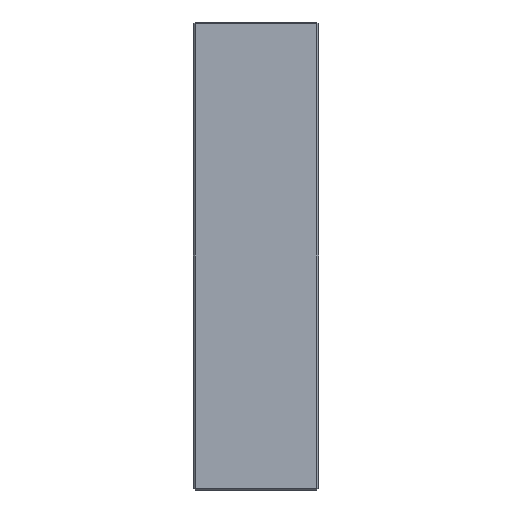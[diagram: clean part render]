
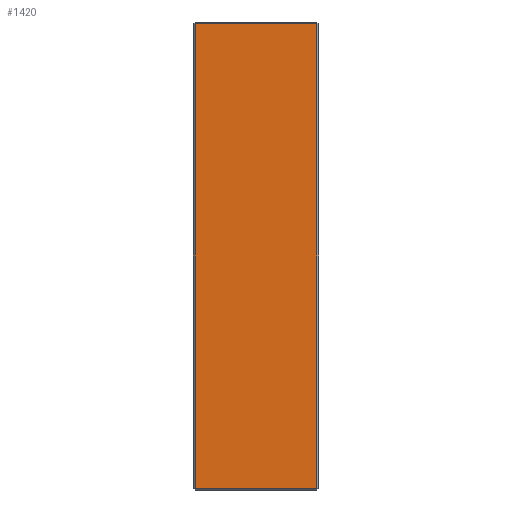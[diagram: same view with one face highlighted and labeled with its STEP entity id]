
A CAD part, left-side view. The second image highlights one B-rep face of the part: STEP entity #1420.
In plain terms, the highlighted planar face has unit normal (-1, 0, 0).
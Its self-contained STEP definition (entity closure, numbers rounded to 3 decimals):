
#58 = VERTEX_POINT ( 'NONE', #1367 ) ;
#107 = VECTOR ( 'NONE', #108, 1000. ) ;
#108 = DIRECTION ( 'NONE',  ( 0., 0., -1. ) ) ;
#140 = LINE ( 'NONE', #1148, #107 ) ;
#163 = AXIS2_PLACEMENT_3D ( 'NONE', #397, #858, #1072 ) ;
#189 = DIRECTION ( 'NONE',  ( 0., 0., 1. ) ) ;
#238 = PLANE ( 'NONE',  #163 ) ;
#307 = EDGE_CURVE ( 'NONE', #1496, #792, #140, .T. ) ;
#319 = VECTOR ( 'NONE', #373, 1000. ) ;
#373 = DIRECTION ( 'NONE',  ( 0., 1., 0. ) ) ;
#397 = CARTESIAN_POINT ( 'NONE',  ( -123., 66., 123. ) ) ;
#526 = VECTOR ( 'NONE', #1484, 1000. ) ;
#598 = FACE_OUTER_BOUND ( 'NONE', #1384, .T. ) ;
#716 = VECTOR ( 'NONE', #189, 1000. ) ;
#792 = VERTEX_POINT ( 'NONE', #1725 ) ;
#822 = LINE ( 'NONE', #1749, #319 ) ;
#858 = DIRECTION ( 'NONE',  ( 1., 0., 0. ) ) ;
#961 = ORIENTED_EDGE ( 'NONE', *, *, #1162, .T. ) ;
#1018 = VERTEX_POINT ( 'NONE', #1090 ) ;
#1038 = CARTESIAN_POINT ( 'NONE',  ( -123., 1., 123. ) ) ;
#1072 = DIRECTION ( 'NONE',  ( 0., 0., -1. ) ) ;
#1090 = CARTESIAN_POINT ( 'NONE',  ( -123., 1., 122. ) ) ;
#1148 = CARTESIAN_POINT ( 'NONE',  ( -123., 65., 123. ) ) ;
#1162 = EDGE_CURVE ( 'NONE', #58, #1018, #1801, .T. ) ;
#1183 = LINE ( 'NONE', #1879, #526 ) ;
#1217 = EDGE_CURVE ( 'NONE', #1018, #1496, #822, .T. ) ;
#1240 = ORIENTED_EDGE ( 'NONE', *, *, #307, .T. ) ;
#1276 = ORIENTED_EDGE ( 'NONE', *, *, #1323, .T. ) ;
#1323 = EDGE_CURVE ( 'NONE', #792, #58, #1183, .T. ) ;
#1361 = ORIENTED_EDGE ( 'NONE', *, *, #1217, .T. ) ;
#1367 = CARTESIAN_POINT ( 'NONE',  ( -123., 1., -122. ) ) ;
#1384 = EDGE_LOOP ( 'NONE', ( #1361, #1240, #1276, #961 ) ) ;
#1420 = ADVANCED_FACE ( 'NONE', ( #598 ), #238, .F. ) ;
#1484 = DIRECTION ( 'NONE',  ( 0., -1., 0. ) ) ;
#1496 = VERTEX_POINT ( 'NONE', #1530 ) ;
#1530 = CARTESIAN_POINT ( 'NONE',  ( -123., 65., 122. ) ) ;
#1725 = CARTESIAN_POINT ( 'NONE',  ( -123., 65., -122. ) ) ;
#1749 = CARTESIAN_POINT ( 'NONE',  ( -123., 66., 122. ) ) ;
#1801 = LINE ( 'NONE', #1038, #716 ) ;
#1879 = CARTESIAN_POINT ( 'NONE',  ( -123., 66., -122. ) ) ;
